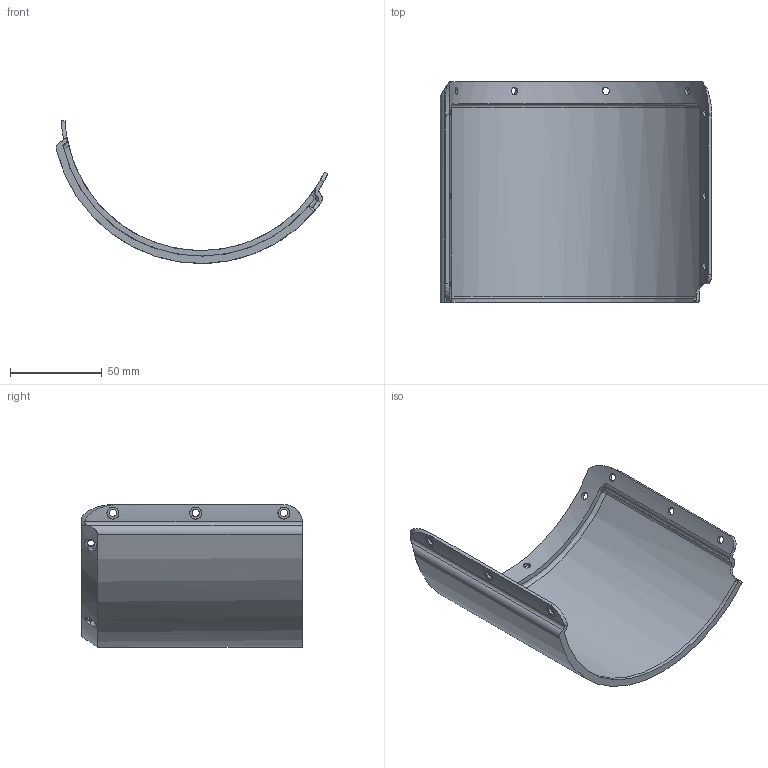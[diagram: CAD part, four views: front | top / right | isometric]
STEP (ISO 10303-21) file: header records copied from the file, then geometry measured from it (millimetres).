
FILE_DESCRIPTION(('CATIA V5 STEP Exchange','CAx-IF Rec.Pracs.--- Model Styling and Organization---1.5--- 2016-08-15','CAx-IF Rec.Pracs.---Supplemental Geometry---1.0---2011-11-01','CAx-IF Rec.Pracs.--- Composite Materials ---1.1---2010-07-15'),'2;1');
FILE_NAME('W:\8-25-003 RENOVATION DEBITMETRE PHI100 A S3\CATIA\Etude\S3MA-8-25003-1017--_DEMI_CAPOT_DSP.stp','2026-02-06T10:09:41+00:00',('none'),('none'),'CATIA Version 5-6 Release 2020 SP6 HF13','CATIA V5 STEP AP214 v2','none');
FILE_SCHEMA(('AUTOMOTIVE_DESIGN { 1 0 10303 214 1 1 1 1 }'));
Length unit declared in the file: millimetre
Products named in the file (1): S3MA-8-25003-1017--_DEMI_CAPOT_DSP
Bounding box: 147.61 x 120 x 77.76 mm (x, y, z)
Volume: 57480.8 mm3; surface area: 53931.4 mm2
Topology: 1 solids, 1 shells, 89 faces, 224 edges, 145 vertices
Faces by surface type: cylinder 59, plane 18, torus 6, bspline 3, sphere 2, cone 1
Entity records: 3248 total; most frequent: CARTESIAN_POINT 1258, ORIENTED_EDGE 444, DIRECTION 267, EDGE_CURVE 222, VERTEX_POINT 145, AXIS2_PLACEMENT_3D 139, EDGE_LOOP 119, ADVANCED_FACE 89
